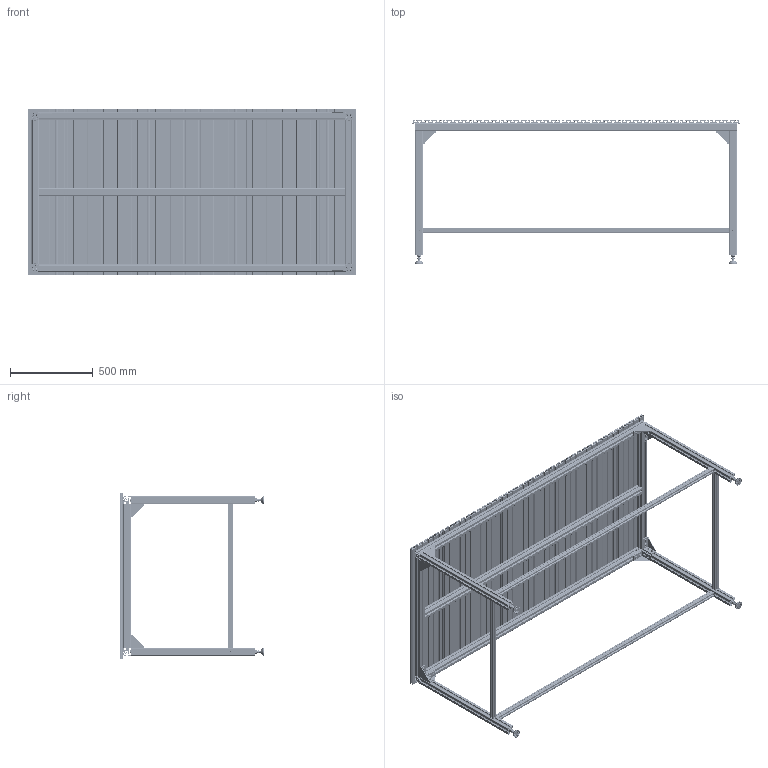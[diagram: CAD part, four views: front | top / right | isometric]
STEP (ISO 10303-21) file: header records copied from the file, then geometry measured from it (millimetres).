
FILE_DESCRIPTION (( 'STEP AP214' ), '1' );
FILE_NAME ('Sborka.STEP', '2023-05-24T08:49:02', ( '' ), ( '' ), 'SwSTEP 2.0', 'SolidWorks 2022', '' );
FILE_SCHEMA (( 'AUTOMOTIVE_DESIGN' ));
Length unit declared in the file: millimetre
Products named in the file (25): 2033; Шпилька М12 100мм; Подошва поворотная 50мм; 1012_sborka; 4545_seredina; socket button head screw_iso_ISO 7380 - M8 x 20 - 20N; 2033_with_5081; 1012; 4545_shirina; M8DIN6923; 5083; 5108_new_Упрощенный; 3030_usilenie_shirina; 5186 (М4-45); Гайка без дырки М12; 5081; Прокладка от скольжения под 50мм; 4545_noga; socket countersunk head screw_din_DIN 7991 - M4 x 16 --- 11.6N; 3030_usilenie_glubina; Sborka; 7040; 4545_glubiba; 5030_5026 упрощенная; 22.5180
Assembly tree (206 placements, depth 3):
  Sborka
    22.5180  x11
    socket countersunk head screw_din_DIN 7991 - M4 x 16 --- 11.6N  x66
    5186 (М4-45)  x66
    4545_glubiba  x2
    4545_shirina  x2
    4545_seredina
    5108_new_Упрощенный  x2
    2033_with_5081  x4
      2033
      5081
    4545_noga  x4
    7040  x4
      Подошва поворотная 50мм
      Шпилька М12 100мм
      Гайка без дырки М12
      Прокладка от скольжения под 50мм
    1012_sborka  x8
      M8DIN6923
      1012
      5030_5026 упрощенная
    3030_usilenie_glubina  x2
    5083  x8
    socket button head screw_iso_ISO 7380 - M8 x 20 - 20N  x8
    3030_usilenie_shirina  x2
Bounding box: 1980 x 872.72 x 1000 mm (x, y, z)
Volume: 33391051.3 mm3; surface area: 17187946.3 mm2
Topology: 276 solids, 276 shells, 15822 faces, 43848 edges, 28282 vertices
Faces by surface type: plane 8662, cylinder 5200, cone 964, sphere 496, torus 468, bspline 32
Entity records: 90894 total; most frequent: CARTESIAN_POINT 17445, DIRECTION 15253, ORIENTED_EDGE 15170, EDGE_CURVE 7585, AXIS2_PLACEMENT_3D 5142, VERTEX_POINT 5006, LINE 4969, VECTOR 4969
